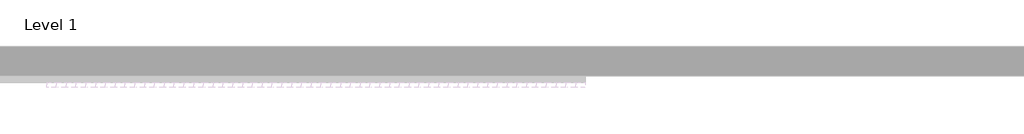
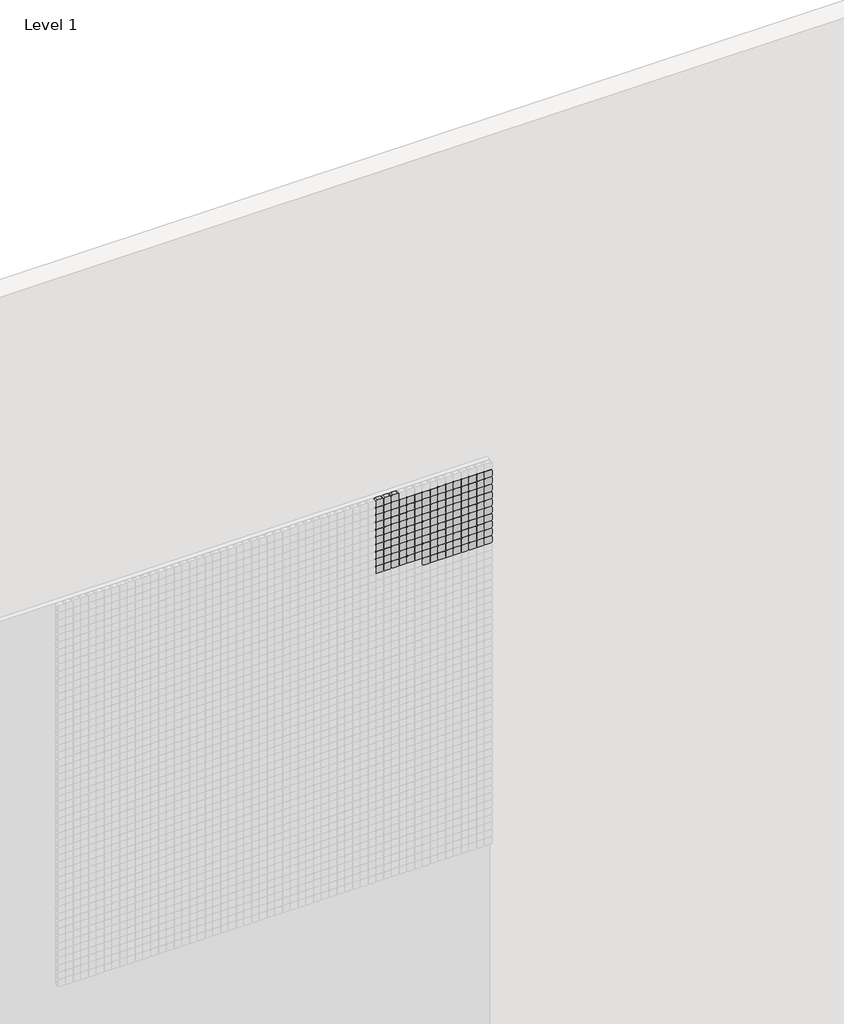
# One storey, part 62 of 71: 147 proxies.
"""IFC4 building model written with IfcOpenShell, lengths in millimetres."""

from ifc_helpers import new_model, si_unit, origin, place, context, project, spatial, transform, mapped, element, save
from components import generic_models_afde289c

model = new_model("IFC4")

# Units and contexts
model_context = context("Model", 3, world=origin())
ifc_project = project(units=[si_unit("LENGTHUNIT", "METRE", prefix="MILLI")], contexts=[model_context])

# Site, building, storey
site = spatial("IfcSite", under=ifc_project)
building = spatial("IfcBuilding", under=site)
storey = spatial("IfcBuildingStorey", under=building, Name="Level 1", Elevation=0.0)

# Proxies
placement = place(None, origin())
generic_models_shape = generic_models_afde289c(model_context)
element("IfcBuildingElementProxy", 1, Name="Pixel_M : Pixel_M", ObjectType="Pixel_M : Pixel_M", at=placement, inside=storey, context=model_context, shape_type="MappedRepresentation", body=[
    mapped(generic_models_shape, transform((9112.4280941, -75.0, 5966.3566215), x_axis=(1.0, 0.0, 0.0), y_axis=(0.0, 0.0, 1.0), z_axis=(0.0, -1.0, 0.0))),
])
element("IfcBuildingElementProxy", 2, Name="Pixel_M : Pixel_M", ObjectType="Pixel_M : Pixel_M", at=placement, inside=storey, context=model_context, shape_type="MappedRepresentation", body=[
    mapped(generic_models_shape, transform((9062.4280941, -75.0, 5966.3566215), x_axis=(1.0, 0.0, 0.0), y_axis=(0.0, 0.0, 1.0), z_axis=(0.0, -1.0, 0.0))),
])
element("IfcBuildingElementProxy", 3, Name="Pixel_M : Pixel_M", ObjectType="Pixel_M : Pixel_M", at=placement, inside=storey, context=model_context, shape_type="MappedRepresentation", body=[
    mapped(generic_models_shape, transform((9012.4280941, -75.0, 5966.3566215), x_axis=(1.0, 0.0, 0.0), y_axis=(0.0, 0.0, 1.0), z_axis=(0.0, -1.0, 0.0))),
])
element("IfcBuildingElementProxy", 4, Name="Pixel_M : Pixel_M", ObjectType="Pixel_M : Pixel_M", at=placement, inside=storey, context=model_context, shape_type="MappedRepresentation", body=[
    mapped(generic_models_shape, transform((9712.4280941, -75.0, 5916.3566215), x_axis=(1.0, 0.0, 0.0), y_axis=(0.0, 0.0, 1.0), z_axis=(0.0, -1.0, 0.0))),
])
element("IfcBuildingElementProxy", 5, Name="Pixel_M : Pixel_M", ObjectType="Pixel_M : Pixel_M", at=placement, inside=storey, context=model_context, shape_type="MappedRepresentation", body=[
    mapped(generic_models_shape, transform((9662.4280941, -75.0, 5916.3566215), x_axis=(1.0, 0.0, 0.0), y_axis=(0.0, 0.0, 1.0), z_axis=(0.0, -1.0, 0.0))),
])
element("IfcBuildingElementProxy", 6, Name="Pixel_M : Pixel_M", ObjectType="Pixel_M : Pixel_M", at=placement, inside=storey, context=model_context, shape_type="MappedRepresentation", body=[
    mapped(generic_models_shape, transform((9612.4280941, -75.0, 5916.3566215), x_axis=(1.0, 0.0, 0.0), y_axis=(0.0, 0.0, 1.0), z_axis=(0.0, -1.0, 0.0))),
])
element("IfcBuildingElementProxy", 7, Name="Pixel_M : Pixel_M", ObjectType="Pixel_M : Pixel_M", at=placement, inside=storey, context=model_context, shape_type="MappedRepresentation", body=[
    mapped(generic_models_shape, transform((9562.4280941, -75.0, 5916.3566215), x_axis=(1.0, 0.0, 0.0), y_axis=(0.0, 0.0, 1.0), z_axis=(0.0, -1.0, 0.0))),
])
element("IfcBuildingElementProxy", 8, Name="Pixel_M : Pixel_M", ObjectType="Pixel_M : Pixel_M", at=placement, inside=storey, context=model_context, shape_type="MappedRepresentation", body=[
    mapped(generic_models_shape, transform((9512.4280941, -75.0, 5916.3566215), x_axis=(1.0, 0.0, 0.0), y_axis=(0.0, 0.0, 1.0), z_axis=(0.0, -1.0, 0.0))),
])
element("IfcBuildingElementProxy", 9, Name="Pixel_M : Pixel_M", ObjectType="Pixel_M : Pixel_M", at=placement, inside=storey, context=model_context, shape_type="MappedRepresentation", body=[
    mapped(generic_models_shape, transform((9462.4280941, -75.0, 5916.3566215), x_axis=(1.0, 0.0, 0.0), y_axis=(0.0, 0.0, 1.0), z_axis=(0.0, -1.0, 0.0))),
])
element("IfcBuildingElementProxy", 10, Name="Pixel_M : Pixel_M", ObjectType="Pixel_M : Pixel_M", at=placement, inside=storey, context=model_context, shape_type="MappedRepresentation", body=[
    mapped(generic_models_shape, transform((9412.4280941, -75.0, 5916.3566215), x_axis=(1.0, 0.0, 0.0), y_axis=(0.0, 0.0, 1.0), z_axis=(0.0, -1.0, 0.0))),
])
element("IfcBuildingElementProxy", 11, Name="Pixel_M : Pixel_M", ObjectType="Pixel_M : Pixel_M", at=placement, inside=storey, context=model_context, shape_type="MappedRepresentation", body=[
    mapped(generic_models_shape, transform((9362.4280941, -75.0, 5916.3566215), x_axis=(1.0, 0.0, 0.0), y_axis=(0.0, 0.0, 1.0), z_axis=(0.0, -1.0, 0.0))),
])
element("IfcBuildingElementProxy", 12, Name="Pixel_M : Pixel_M", ObjectType="Pixel_M : Pixel_M", at=placement, inside=storey, context=model_context, shape_type="MappedRepresentation", body=[
    mapped(generic_models_shape, transform((9312.4280941, -75.0, 5916.3566215), x_axis=(1.0, 0.0, 0.0), y_axis=(0.0, 0.0, 1.0), z_axis=(0.0, -1.0, 0.0))),
])
element("IfcBuildingElementProxy", 13, Name="Pixel_M : Pixel_M", ObjectType="Pixel_M : Pixel_M", at=placement, inside=storey, context=model_context, shape_type="MappedRepresentation", body=[
    mapped(generic_models_shape, transform((9262.4280941, -75.0, 5916.3566215), x_axis=(1.0, 0.0, 0.0), y_axis=(0.0, 0.0, 1.0), z_axis=(0.0, -1.0, 0.0))),
])
element("IfcBuildingElementProxy", 14, Name="Pixel_M : Pixel_M", ObjectType="Pixel_M : Pixel_M", at=placement, inside=storey, context=model_context, shape_type="MappedRepresentation", body=[
    mapped(generic_models_shape, transform((9212.4280941, -75.0, 5916.3566215), x_axis=(1.0, 0.0, 0.0), y_axis=(0.0, 0.0, 1.0), z_axis=(0.0, -1.0, 0.0))),
])
element("IfcBuildingElementProxy", 15, Name="Pixel_M : Pixel_M", ObjectType="Pixel_M : Pixel_M", at=placement, inside=storey, context=model_context, shape_type="MappedRepresentation", body=[
    mapped(generic_models_shape, transform((9162.4280941, -75.0, 5916.3566215), x_axis=(1.0, 0.0, 0.0), y_axis=(0.0, 0.0, 1.0), z_axis=(0.0, -1.0, 0.0))),
])
element("IfcBuildingElementProxy", 16, Name="Pixel_M : Pixel_M", ObjectType="Pixel_M : Pixel_M", at=placement, inside=storey, context=model_context, shape_type="MappedRepresentation", body=[
    mapped(generic_models_shape, transform((9112.4280941, -75.0, 5916.3566215), x_axis=(1.0, 0.0, 0.0), y_axis=(0.0, 0.0, 1.0), z_axis=(0.0, -1.0, 0.0))),
])
element("IfcBuildingElementProxy", 17, Name="Pixel_M : Pixel_M", ObjectType="Pixel_M : Pixel_M", at=placement, inside=storey, context=model_context, shape_type="MappedRepresentation", body=[
    mapped(generic_models_shape, transform((9062.4280941, -75.0, 5916.3566215), x_axis=(1.0, 0.0, 0.0), y_axis=(0.0, 0.0, 1.0), z_axis=(0.0, -1.0, 0.0))),
])
element("IfcBuildingElementProxy", 18, Name="Pixel_M : Pixel_M", ObjectType="Pixel_M : Pixel_M", at=placement, inside=storey, context=model_context, shape_type="MappedRepresentation", body=[
    mapped(generic_models_shape, transform((9012.4280941, -75.0, 5916.3566215), x_axis=(1.0, 0.0, 0.0), y_axis=(0.0, 0.0, 1.0), z_axis=(0.0, -1.0, 0.0))),
])
element("IfcBuildingElementProxy", 19, Name="Pixel_M : Pixel_M", ObjectType="Pixel_M : Pixel_M", at=placement, inside=storey, context=model_context, shape_type="MappedRepresentation", body=[
    mapped(generic_models_shape, transform((9712.4280941, -75.0, 5866.3566215), x_axis=(1.0, 0.0, 0.0), y_axis=(0.0, 0.0, 1.0), z_axis=(0.0, -1.0, 0.0))),
])
element("IfcBuildingElementProxy", 20, Name="Pixel_M : Pixel_M", ObjectType="Pixel_M : Pixel_M", at=placement, inside=storey, context=model_context, shape_type="MappedRepresentation", body=[
    mapped(generic_models_shape, transform((9662.4280941, -75.0, 5866.3566215), x_axis=(1.0, 0.0, 0.0), y_axis=(0.0, 0.0, 1.0), z_axis=(0.0, -1.0, 0.0))),
])
element("IfcBuildingElementProxy", 21, Name="Pixel_M : Pixel_M", ObjectType="Pixel_M : Pixel_M", at=placement, inside=storey, context=model_context, shape_type="MappedRepresentation", body=[
    mapped(generic_models_shape, transform((9612.4280941, -75.0, 5866.3566215), x_axis=(1.0, 0.0, 0.0), y_axis=(0.0, 0.0, 1.0), z_axis=(0.0, -1.0, 0.0))),
])
element("IfcBuildingElementProxy", 22, Name="Pixel_M : Pixel_M", ObjectType="Pixel_M : Pixel_M", at=placement, inside=storey, context=model_context, shape_type="MappedRepresentation", body=[
    mapped(generic_models_shape, transform((9562.4280941, -75.0, 5866.3566215), x_axis=(1.0, 0.0, 0.0), y_axis=(0.0, 0.0, 1.0), z_axis=(0.0, -1.0, 0.0))),
])
element("IfcBuildingElementProxy", 23, Name="Pixel_M : Pixel_M", ObjectType="Pixel_M : Pixel_M", at=placement, inside=storey, context=model_context, shape_type="MappedRepresentation", body=[
    mapped(generic_models_shape, transform((9512.4280941, -75.0, 5866.3566215), x_axis=(1.0, 0.0, 0.0), y_axis=(0.0, 0.0, 1.0), z_axis=(0.0, -1.0, 0.0))),
])
element("IfcBuildingElementProxy", 24, Name="Pixel_M : Pixel_M", ObjectType="Pixel_M : Pixel_M", at=placement, inside=storey, context=model_context, shape_type="MappedRepresentation", body=[
    mapped(generic_models_shape, transform((9462.4280941, -75.0, 5866.3566215), x_axis=(1.0, 0.0, 0.0), y_axis=(0.0, 0.0, 1.0), z_axis=(0.0, -1.0, 0.0))),
])
element("IfcBuildingElementProxy", 25, Name="Pixel_M : Pixel_M", ObjectType="Pixel_M : Pixel_M", at=placement, inside=storey, context=model_context, shape_type="MappedRepresentation", body=[
    mapped(generic_models_shape, transform((9412.4280941, -75.0, 5866.3566215), x_axis=(1.0, 0.0, 0.0), y_axis=(0.0, 0.0, 1.0), z_axis=(0.0, -1.0, 0.0))),
])
element("IfcBuildingElementProxy", 26, Name="Pixel_M : Pixel_M", ObjectType="Pixel_M : Pixel_M", at=placement, inside=storey, context=model_context, shape_type="MappedRepresentation", body=[
    mapped(generic_models_shape, transform((9362.4280941, -75.0, 5866.3566215), x_axis=(1.0, 0.0, 0.0), y_axis=(0.0, 0.0, 1.0), z_axis=(0.0, -1.0, 0.0))),
])
element("IfcBuildingElementProxy", 27, Name="Pixel_M : Pixel_M", ObjectType="Pixel_M : Pixel_M", at=placement, inside=storey, context=model_context, shape_type="MappedRepresentation", body=[
    mapped(generic_models_shape, transform((9312.4280941, -75.0, 5866.3566215), x_axis=(1.0, 0.0, 0.0), y_axis=(0.0, 0.0, 1.0), z_axis=(0.0, -1.0, 0.0))),
])
element("IfcBuildingElementProxy", 28, Name="Pixel_M : Pixel_M", ObjectType="Pixel_M : Pixel_M", at=placement, inside=storey, context=model_context, shape_type="MappedRepresentation", body=[
    mapped(generic_models_shape, transform((9262.4280941, -75.0, 5866.3566215), x_axis=(1.0, 0.0, 0.0), y_axis=(0.0, 0.0, 1.0), z_axis=(0.0, -1.0, 0.0))),
])
element("IfcBuildingElementProxy", 29, Name="Pixel_M : Pixel_M", ObjectType="Pixel_M : Pixel_M", at=placement, inside=storey, context=model_context, shape_type="MappedRepresentation", body=[
    mapped(generic_models_shape, transform((9212.4280941, -75.0, 5866.3566215), x_axis=(1.0, 0.0, 0.0), y_axis=(0.0, 0.0, 1.0), z_axis=(0.0, -1.0, 0.0))),
])
element("IfcBuildingElementProxy", 30, Name="Pixel_M : Pixel_M", ObjectType="Pixel_M : Pixel_M", at=placement, inside=storey, context=model_context, shape_type="MappedRepresentation", body=[
    mapped(generic_models_shape, transform((9162.4280941, -75.0, 5866.3566215), x_axis=(1.0, 0.0, 0.0), y_axis=(0.0, 0.0, 1.0), z_axis=(0.0, -1.0, 0.0))),
])
element("IfcBuildingElementProxy", 31, Name="Pixel_M : Pixel_M", ObjectType="Pixel_M : Pixel_M", at=placement, inside=storey, context=model_context, shape_type="MappedRepresentation", body=[
    mapped(generic_models_shape, transform((9112.4280941, -75.0, 5866.3566215), x_axis=(1.0, 0.0, 0.0), y_axis=(0.0, 0.0, 1.0), z_axis=(0.0, -1.0, 0.0))),
])
element("IfcBuildingElementProxy", 32, Name="Pixel_M : Pixel_M", ObjectType="Pixel_M : Pixel_M", at=placement, inside=storey, context=model_context, shape_type="MappedRepresentation", body=[
    mapped(generic_models_shape, transform((9062.4280941, -75.0, 5866.3566215), x_axis=(1.0, 0.0, 0.0), y_axis=(0.0, 0.0, 1.0), z_axis=(0.0, -1.0, 0.0))),
])
element("IfcBuildingElementProxy", 33, Name="Pixel_M : Pixel_M", ObjectType="Pixel_M : Pixel_M", at=placement, inside=storey, context=model_context, shape_type="MappedRepresentation", body=[
    mapped(generic_models_shape, transform((9012.4280941, -75.0, 5866.3566215), x_axis=(1.0, 0.0, 0.0), y_axis=(0.0, 0.0, 1.0), z_axis=(0.0, -1.0, 0.0))),
])
element("IfcBuildingElementProxy", 34, Name="Pixel_M : Pixel_M", ObjectType="Pixel_M : Pixel_M", at=placement, inside=storey, context=model_context, shape_type="MappedRepresentation", body=[
    mapped(generic_models_shape, transform((9712.4280941, -75.0, 5816.3566215), x_axis=(1.0, 0.0, 0.0), y_axis=(0.0, 0.0, 1.0), z_axis=(0.0, -1.0, 0.0))),
])
element("IfcBuildingElementProxy", 35, Name="Pixel_M : Pixel_M", ObjectType="Pixel_M : Pixel_M", at=placement, inside=storey, context=model_context, shape_type="MappedRepresentation", body=[
    mapped(generic_models_shape, transform((9662.4280941, -75.0, 5816.3566215), x_axis=(1.0, 0.0, 0.0), y_axis=(0.0, 0.0, 1.0), z_axis=(0.0, -1.0, 0.0))),
])
element("IfcBuildingElementProxy", 36, Name="Pixel_M : Pixel_M", ObjectType="Pixel_M : Pixel_M", at=placement, inside=storey, context=model_context, shape_type="MappedRepresentation", body=[
    mapped(generic_models_shape, transform((9612.4280941, -75.0, 5816.3566215), x_axis=(1.0, 0.0, 0.0), y_axis=(0.0, 0.0, 1.0), z_axis=(0.0, -1.0, 0.0))),
])
element("IfcBuildingElementProxy", 37, Name="Pixel_M : Pixel_M", ObjectType="Pixel_M : Pixel_M", at=placement, inside=storey, context=model_context, shape_type="MappedRepresentation", body=[
    mapped(generic_models_shape, transform((9562.4280941, -75.0, 5816.3566215), x_axis=(1.0, 0.0, 0.0), y_axis=(0.0, 0.0, 1.0), z_axis=(0.0, -1.0, 0.0))),
])
element("IfcBuildingElementProxy", 38, Name="Pixel_M : Pixel_M", ObjectType="Pixel_M : Pixel_M", at=placement, inside=storey, context=model_context, shape_type="MappedRepresentation", body=[
    mapped(generic_models_shape, transform((9512.4280941, -75.0, 5816.3566215), x_axis=(1.0, 0.0, 0.0), y_axis=(0.0, 0.0, 1.0), z_axis=(0.0, -1.0, 0.0))),
])
element("IfcBuildingElementProxy", 39, Name="Pixel_M : Pixel_M", ObjectType="Pixel_M : Pixel_M", at=placement, inside=storey, context=model_context, shape_type="MappedRepresentation", body=[
    mapped(generic_models_shape, transform((9462.4280941, -75.0, 5816.3566215), x_axis=(1.0, 0.0, 0.0), y_axis=(0.0, 0.0, 1.0), z_axis=(0.0, -1.0, 0.0))),
])
element("IfcBuildingElementProxy", 40, Name="Pixel_M : Pixel_M", ObjectType="Pixel_M : Pixel_M", at=placement, inside=storey, context=model_context, shape_type="MappedRepresentation", body=[
    mapped(generic_models_shape, transform((9412.4280941, -75.0, 5816.3566215), x_axis=(1.0, 0.0, 0.0), y_axis=(0.0, 0.0, 1.0), z_axis=(0.0, -1.0, 0.0))),
])
element("IfcBuildingElementProxy", 41, Name="Pixel_M : Pixel_M", ObjectType="Pixel_M : Pixel_M", at=placement, inside=storey, context=model_context, shape_type="MappedRepresentation", body=[
    mapped(generic_models_shape, transform((9362.4280941, -75.0, 5816.3566215), x_axis=(1.0, 0.0, 0.0), y_axis=(0.0, 0.0, 1.0), z_axis=(0.0, -1.0, 0.0))),
])
element("IfcBuildingElementProxy", 42, Name="Pixel_M : Pixel_M", ObjectType="Pixel_M : Pixel_M", at=placement, inside=storey, context=model_context, shape_type="MappedRepresentation", body=[
    mapped(generic_models_shape, transform((9312.4280941, -75.0, 5816.3566215), x_axis=(1.0, 0.0, 0.0), y_axis=(0.0, 0.0, 1.0), z_axis=(0.0, -1.0, 0.0))),
])
element("IfcBuildingElementProxy", 43, Name="Pixel_M : Pixel_M", ObjectType="Pixel_M : Pixel_M", at=placement, inside=storey, context=model_context, shape_type="MappedRepresentation", body=[
    mapped(generic_models_shape, transform((9262.4280941, -75.0, 5816.3566215), x_axis=(1.0, 0.0, 0.0), y_axis=(0.0, 0.0, 1.0), z_axis=(0.0, -1.0, 0.0))),
])
element("IfcBuildingElementProxy", 44, Name="Pixel_M : Pixel_M", ObjectType="Pixel_M : Pixel_M", at=placement, inside=storey, context=model_context, shape_type="MappedRepresentation", body=[
    mapped(generic_models_shape, transform((9212.4280941, -75.0, 5816.3566215), x_axis=(1.0, 0.0, 0.0), y_axis=(0.0, 0.0, 1.0), z_axis=(0.0, -1.0, 0.0))),
])
element("IfcBuildingElementProxy", 45, Name="Pixel_M : Pixel_M", ObjectType="Pixel_M : Pixel_M", at=placement, inside=storey, context=model_context, shape_type="MappedRepresentation", body=[
    mapped(generic_models_shape, transform((9162.4280941, -75.0, 5816.3566215), x_axis=(1.0, 0.0, 0.0), y_axis=(0.0, 0.0, 1.0), z_axis=(0.0, -1.0, 0.0))),
])
element("IfcBuildingElementProxy", 46, Name="Pixel_M : Pixel_M", ObjectType="Pixel_M : Pixel_M", at=placement, inside=storey, context=model_context, shape_type="MappedRepresentation", body=[
    mapped(generic_models_shape, transform((9112.4280941, -75.0, 5816.3566215), x_axis=(1.0, 0.0, 0.0), y_axis=(0.0, 0.0, 1.0), z_axis=(0.0, -1.0, 0.0))),
])
element("IfcBuildingElementProxy", 47, Name="Pixel_M : Pixel_M", ObjectType="Pixel_M : Pixel_M", at=placement, inside=storey, context=model_context, shape_type="MappedRepresentation", body=[
    mapped(generic_models_shape, transform((9062.4280941, -75.0, 5816.3566215), x_axis=(1.0, 0.0, 0.0), y_axis=(0.0, 0.0, 1.0), z_axis=(0.0, -1.0, 0.0))),
])
element("IfcBuildingElementProxy", 48, Name="Pixel_M : Pixel_M", ObjectType="Pixel_M : Pixel_M", at=placement, inside=storey, context=model_context, shape_type="MappedRepresentation", body=[
    mapped(generic_models_shape, transform((9012.4280941, -75.0, 5816.3566215), x_axis=(1.0, 0.0, 0.0), y_axis=(0.0, 0.0, 1.0), z_axis=(0.0, -1.0, 0.0))),
])
element("IfcBuildingElementProxy", 49, Name="Pixel_M : Pixel_M", ObjectType="Pixel_M : Pixel_M", at=placement, inside=storey, context=model_context, shape_type="MappedRepresentation", body=[
    mapped(generic_models_shape, transform((9712.4280941, -75.0, 5766.3566215), x_axis=(1.0, 0.0, 0.0), y_axis=(0.0, 0.0, 1.0), z_axis=(0.0, -1.0, 0.0))),
])
element("IfcBuildingElementProxy", 50, Name="Pixel_M : Pixel_M", ObjectType="Pixel_M : Pixel_M", at=placement, inside=storey, context=model_context, shape_type="MappedRepresentation", body=[
    mapped(generic_models_shape, transform((9662.4280941, -75.0, 5766.3566215), x_axis=(1.0, 0.0, 0.0), y_axis=(0.0, 0.0, 1.0), z_axis=(0.0, -1.0, 0.0))),
])
element("IfcBuildingElementProxy", 51, Name="Pixel_M : Pixel_M", ObjectType="Pixel_M : Pixel_M", at=placement, inside=storey, context=model_context, shape_type="MappedRepresentation", body=[
    mapped(generic_models_shape, transform((9612.4280941, -75.0, 5766.3566215), x_axis=(1.0, 0.0, 0.0), y_axis=(0.0, 0.0, 1.0), z_axis=(0.0, -1.0, 0.0))),
])
element("IfcBuildingElementProxy", 52, Name="Pixel_M : Pixel_M", ObjectType="Pixel_M : Pixel_M", at=placement, inside=storey, context=model_context, shape_type="MappedRepresentation", body=[
    mapped(generic_models_shape, transform((9562.4280941, -75.0, 5766.3566215), x_axis=(1.0, 0.0, 0.0), y_axis=(0.0, 0.0, 1.0), z_axis=(0.0, -1.0, 0.0))),
])
element("IfcBuildingElementProxy", 53, Name="Pixel_M : Pixel_M", ObjectType="Pixel_M : Pixel_M", at=placement, inside=storey, context=model_context, shape_type="MappedRepresentation", body=[
    mapped(generic_models_shape, transform((9512.4280941, -75.0, 5766.3566215), x_axis=(1.0, 0.0, 0.0), y_axis=(0.0, 0.0, 1.0), z_axis=(0.0, -1.0, 0.0))),
])
element("IfcBuildingElementProxy", 54, Name="Pixel_M : Pixel_M", ObjectType="Pixel_M : Pixel_M", at=placement, inside=storey, context=model_context, shape_type="MappedRepresentation", body=[
    mapped(generic_models_shape, transform((9462.4280941, -75.0, 5766.3566215), x_axis=(1.0, 0.0, 0.0), y_axis=(0.0, 0.0, 1.0), z_axis=(0.0, -1.0, 0.0))),
])
element("IfcBuildingElementProxy", 55, Name="Pixel_M : Pixel_M", ObjectType="Pixel_M : Pixel_M", at=placement, inside=storey, context=model_context, shape_type="MappedRepresentation", body=[
    mapped(generic_models_shape, transform((9412.4280941, -75.0, 5766.3566215), x_axis=(1.0, 0.0, 0.0), y_axis=(0.0, 0.0, 1.0), z_axis=(0.0, -1.0, 0.0))),
])
element("IfcBuildingElementProxy", 56, Name="Pixel_M : Pixel_M", ObjectType="Pixel_M : Pixel_M", at=placement, inside=storey, context=model_context, shape_type="MappedRepresentation", body=[
    mapped(generic_models_shape, transform((9362.4280941, -75.0, 5766.3566215), x_axis=(1.0, 0.0, 0.0), y_axis=(0.0, 0.0, 1.0), z_axis=(0.0, -1.0, 0.0))),
])
element("IfcBuildingElementProxy", 57, Name="Pixel_M : Pixel_M", ObjectType="Pixel_M : Pixel_M", at=placement, inside=storey, context=model_context, shape_type="MappedRepresentation", body=[
    mapped(generic_models_shape, transform((9312.4280941, -75.0, 5766.3566215), x_axis=(1.0, 0.0, 0.0), y_axis=(0.0, 0.0, 1.0), z_axis=(0.0, -1.0, 0.0))),
])
element("IfcBuildingElementProxy", 58, Name="Pixel_M : Pixel_M", ObjectType="Pixel_M : Pixel_M", at=placement, inside=storey, context=model_context, shape_type="MappedRepresentation", body=[
    mapped(generic_models_shape, transform((9262.4280941, -75.0, 5766.3566215), x_axis=(1.0, 0.0, 0.0), y_axis=(0.0, 0.0, 1.0), z_axis=(0.0, -1.0, 0.0))),
])
element("IfcBuildingElementProxy", 59, Name="Pixel_M : Pixel_M", ObjectType="Pixel_M : Pixel_M", at=placement, inside=storey, context=model_context, shape_type="MappedRepresentation", body=[
    mapped(generic_models_shape, transform((9212.4280941, -75.0, 5766.3566215), x_axis=(1.0, 0.0, 0.0), y_axis=(0.0, 0.0, 1.0), z_axis=(0.0, -1.0, 0.0))),
])
element("IfcBuildingElementProxy", 60, Name="Pixel_M : Pixel_M", ObjectType="Pixel_M : Pixel_M", at=placement, inside=storey, context=model_context, shape_type="MappedRepresentation", body=[
    mapped(generic_models_shape, transform((9162.4280941, -75.0, 5766.3566215), x_axis=(1.0, 0.0, 0.0), y_axis=(0.0, 0.0, 1.0), z_axis=(0.0, -1.0, 0.0))),
])
element("IfcBuildingElementProxy", 61, Name="Pixel_M : Pixel_M", ObjectType="Pixel_M : Pixel_M", at=placement, inside=storey, context=model_context, shape_type="MappedRepresentation", body=[
    mapped(generic_models_shape, transform((9112.4280941, -75.0, 5766.3566215), x_axis=(1.0, 0.0, 0.0), y_axis=(0.0, 0.0, 1.0), z_axis=(0.0, -1.0, 0.0))),
])
element("IfcBuildingElementProxy", 62, Name="Pixel_M : Pixel_M", ObjectType="Pixel_M : Pixel_M", at=placement, inside=storey, context=model_context, shape_type="MappedRepresentation", body=[
    mapped(generic_models_shape, transform((9062.4280941, -75.0, 5766.3566215), x_axis=(1.0, 0.0, 0.0), y_axis=(0.0, 0.0, 1.0), z_axis=(0.0, -1.0, 0.0))),
])
element("IfcBuildingElementProxy", 63, Name="Pixel_M : Pixel_M", ObjectType="Pixel_M : Pixel_M", at=placement, inside=storey, context=model_context, shape_type="MappedRepresentation", body=[
    mapped(generic_models_shape, transform((9012.4280941, -75.0, 5766.3566215), x_axis=(1.0, 0.0, 0.0), y_axis=(0.0, 0.0, 1.0), z_axis=(0.0, -1.0, 0.0))),
])
element("IfcBuildingElementProxy", 64, Name="Pixel_M : Pixel_M", ObjectType="Pixel_M : Pixel_M", at=placement, inside=storey, context=model_context, shape_type="MappedRepresentation", body=[
    mapped(generic_models_shape, transform((9712.4280941, -75.0, 5716.3566215), x_axis=(1.0, 0.0, 0.0), y_axis=(0.0, 0.0, 1.0), z_axis=(0.0, -1.0, 0.0))),
])
element("IfcBuildingElementProxy", 65, Name="Pixel_M : Pixel_M", ObjectType="Pixel_M : Pixel_M", at=placement, inside=storey, context=model_context, shape_type="MappedRepresentation", body=[
    mapped(generic_models_shape, transform((9662.4280941, -75.0, 5716.3566215), x_axis=(1.0, 0.0, 0.0), y_axis=(0.0, 0.0, 1.0), z_axis=(0.0, -1.0, 0.0))),
])
element("IfcBuildingElementProxy", 66, Name="Pixel_M : Pixel_M", ObjectType="Pixel_M : Pixel_M", at=placement, inside=storey, context=model_context, shape_type="MappedRepresentation", body=[
    mapped(generic_models_shape, transform((9612.4280941, -75.0, 5716.3566215), x_axis=(1.0, 0.0, 0.0), y_axis=(0.0, 0.0, 1.0), z_axis=(0.0, -1.0, 0.0))),
])
element("IfcBuildingElementProxy", 67, Name="Pixel_M : Pixel_M", ObjectType="Pixel_M : Pixel_M", at=placement, inside=storey, context=model_context, shape_type="MappedRepresentation", body=[
    mapped(generic_models_shape, transform((9562.4280941, -75.0, 5716.3566215), x_axis=(1.0, 0.0, 0.0), y_axis=(0.0, 0.0, 1.0), z_axis=(0.0, -1.0, 0.0))),
])
element("IfcBuildingElementProxy", 68, Name="Pixel_M : Pixel_M", ObjectType="Pixel_M : Pixel_M", at=placement, inside=storey, context=model_context, shape_type="MappedRepresentation", body=[
    mapped(generic_models_shape, transform((9512.4280941, -75.0, 5716.3566215), x_axis=(1.0, 0.0, 0.0), y_axis=(0.0, 0.0, 1.0), z_axis=(0.0, -1.0, 0.0))),
])
element("IfcBuildingElementProxy", 69, Name="Pixel_M : Pixel_M", ObjectType="Pixel_M : Pixel_M", at=placement, inside=storey, context=model_context, shape_type="MappedRepresentation", body=[
    mapped(generic_models_shape, transform((9462.4280941, -75.0, 5716.3566215), x_axis=(1.0, 0.0, 0.0), y_axis=(0.0, 0.0, 1.0), z_axis=(0.0, -1.0, 0.0))),
])
element("IfcBuildingElementProxy", 70, Name="Pixel_M : Pixel_M", ObjectType="Pixel_M : Pixel_M", at=placement, inside=storey, context=model_context, shape_type="MappedRepresentation", body=[
    mapped(generic_models_shape, transform((9412.4280941, -75.0, 5716.3566215), x_axis=(1.0, 0.0, 0.0), y_axis=(0.0, 0.0, 1.0), z_axis=(0.0, -1.0, 0.0))),
])
element("IfcBuildingElementProxy", 71, Name="Pixel_M : Pixel_M", ObjectType="Pixel_M : Pixel_M", at=placement, inside=storey, context=model_context, shape_type="MappedRepresentation", body=[
    mapped(generic_models_shape, transform((9362.4280941, -75.0, 5716.3566215), x_axis=(1.0, 0.0, 0.0), y_axis=(0.0, 0.0, 1.0), z_axis=(0.0, -1.0, 0.0))),
])
element("IfcBuildingElementProxy", 72, Name="Pixel_M : Pixel_M", ObjectType="Pixel_M : Pixel_M", at=placement, inside=storey, context=model_context, shape_type="MappedRepresentation", body=[
    mapped(generic_models_shape, transform((9312.4280941, -75.0, 5716.3566215), x_axis=(1.0, 0.0, 0.0), y_axis=(0.0, 0.0, 1.0), z_axis=(0.0, -1.0, 0.0))),
])
element("IfcBuildingElementProxy", 73, Name="Pixel_M : Pixel_M", ObjectType="Pixel_M : Pixel_M", at=placement, inside=storey, context=model_context, shape_type="MappedRepresentation", body=[
    mapped(generic_models_shape, transform((9262.4280941, -75.0, 5716.3566215), x_axis=(1.0, 0.0, 0.0), y_axis=(0.0, 0.0, 1.0), z_axis=(0.0, -1.0, 0.0))),
])
element("IfcBuildingElementProxy", 74, Name="Pixel_M : Pixel_M", ObjectType="Pixel_M : Pixel_M", at=placement, inside=storey, context=model_context, shape_type="MappedRepresentation", body=[
    mapped(generic_models_shape, transform((9212.4280941, -75.0, 5716.3566215), x_axis=(1.0, 0.0, 0.0), y_axis=(0.0, 0.0, 1.0), z_axis=(0.0, -1.0, 0.0))),
])
element("IfcBuildingElementProxy", 75, Name="Pixel_M : Pixel_M", ObjectType="Pixel_M : Pixel_M", at=placement, inside=storey, context=model_context, shape_type="MappedRepresentation", body=[
    mapped(generic_models_shape, transform((9162.4280941, -75.0, 5716.3566215), x_axis=(1.0, 0.0, 0.0), y_axis=(0.0, 0.0, 1.0), z_axis=(0.0, -1.0, 0.0))),
])
element("IfcBuildingElementProxy", 76, Name="Pixel_M : Pixel_M", ObjectType="Pixel_M : Pixel_M", at=placement, inside=storey, context=model_context, shape_type="MappedRepresentation", body=[
    mapped(generic_models_shape, transform((9112.4280941, -75.0, 5716.3566215), x_axis=(1.0, 0.0, 0.0), y_axis=(0.0, 0.0, 1.0), z_axis=(0.0, -1.0, 0.0))),
])
element("IfcBuildingElementProxy", 77, Name="Pixel_M : Pixel_M", ObjectType="Pixel_M : Pixel_M", at=placement, inside=storey, context=model_context, shape_type="MappedRepresentation", body=[
    mapped(generic_models_shape, transform((9062.4280941, -75.0, 5716.3566215), x_axis=(1.0, 0.0, 0.0), y_axis=(0.0, 0.0, 1.0), z_axis=(0.0, -1.0, 0.0))),
])
element("IfcBuildingElementProxy", 78, Name="Pixel_M : Pixel_M", ObjectType="Pixel_M : Pixel_M", at=placement, inside=storey, context=model_context, shape_type="MappedRepresentation", body=[
    mapped(generic_models_shape, transform((9012.4280941, -75.0, 5716.3566215), x_axis=(1.0, 0.0, 0.0), y_axis=(0.0, 0.0, 1.0), z_axis=(0.0, -1.0, 0.0))),
])
element("IfcBuildingElementProxy", 79, Name="Pixel_M : Pixel_M", ObjectType="Pixel_M : Pixel_M", at=placement, inside=storey, context=model_context, shape_type="MappedRepresentation", body=[
    mapped(generic_models_shape, transform((9712.4280941, -75.0, 5666.3566215), x_axis=(1.0, 0.0, 0.0), y_axis=(0.0, 0.0, 1.0), z_axis=(0.0, -1.0, 0.0))),
])
element("IfcBuildingElementProxy", 80, Name="Pixel_M : Pixel_M", ObjectType="Pixel_M : Pixel_M", at=placement, inside=storey, context=model_context, shape_type="MappedRepresentation", body=[
    mapped(generic_models_shape, transform((9662.4280941, -75.0, 5666.3566215), x_axis=(1.0, 0.0, 0.0), y_axis=(0.0, 0.0, 1.0), z_axis=(0.0, -1.0, 0.0))),
])
element("IfcBuildingElementProxy", 81, Name="Pixel_M : Pixel_M", ObjectType="Pixel_M : Pixel_M", at=placement, inside=storey, context=model_context, shape_type="MappedRepresentation", body=[
    mapped(generic_models_shape, transform((9612.4280941, -75.0, 5666.3566215), x_axis=(1.0, 0.0, 0.0), y_axis=(0.0, 0.0, 1.0), z_axis=(0.0, -1.0, 0.0))),
])
element("IfcBuildingElementProxy", 82, Name="Pixel_M : Pixel_M", ObjectType="Pixel_M : Pixel_M", at=placement, inside=storey, context=model_context, shape_type="MappedRepresentation", body=[
    mapped(generic_models_shape, transform((9562.4280941, -75.0, 5666.3566215), x_axis=(1.0, 0.0, 0.0), y_axis=(0.0, 0.0, 1.0), z_axis=(0.0, -1.0, 0.0))),
])
element("IfcBuildingElementProxy", 83, Name="Pixel_M : Pixel_M", ObjectType="Pixel_M : Pixel_M", at=placement, inside=storey, context=model_context, shape_type="MappedRepresentation", body=[
    mapped(generic_models_shape, transform((9512.4280941, -75.0, 5666.3566215), x_axis=(1.0, 0.0, 0.0), y_axis=(0.0, 0.0, 1.0), z_axis=(0.0, -1.0, 0.0))),
])
element("IfcBuildingElementProxy", 84, Name="Pixel_M : Pixel_M", ObjectType="Pixel_M : Pixel_M", at=placement, inside=storey, context=model_context, shape_type="MappedRepresentation", body=[
    mapped(generic_models_shape, transform((9462.4280941, -75.0, 5666.3566215), x_axis=(1.0, 0.0, 0.0), y_axis=(0.0, 0.0, 1.0), z_axis=(0.0, -1.0, 0.0))),
])
element("IfcBuildingElementProxy", 85, Name="Pixel_M : Pixel_M", ObjectType="Pixel_M : Pixel_M", at=placement, inside=storey, context=model_context, shape_type="MappedRepresentation", body=[
    mapped(generic_models_shape, transform((9412.4280941, -75.0, 5666.3566215), x_axis=(1.0, 0.0, 0.0), y_axis=(0.0, 0.0, 1.0), z_axis=(0.0, -1.0, 0.0))),
])
element("IfcBuildingElementProxy", 86, Name="Pixel_M : Pixel_M", ObjectType="Pixel_M : Pixel_M", at=placement, inside=storey, context=model_context, shape_type="MappedRepresentation", body=[
    mapped(generic_models_shape, transform((9362.4280941, -75.0, 5666.3566215), x_axis=(1.0, 0.0, 0.0), y_axis=(0.0, 0.0, 1.0), z_axis=(0.0, -1.0, 0.0))),
])
element("IfcBuildingElementProxy", 87, Name="Pixel_M : Pixel_M", ObjectType="Pixel_M : Pixel_M", at=placement, inside=storey, context=model_context, shape_type="MappedRepresentation", body=[
    mapped(generic_models_shape, transform((9312.4280941, -75.0, 5666.3566215), x_axis=(1.0, 0.0, 0.0), y_axis=(0.0, 0.0, 1.0), z_axis=(0.0, -1.0, 0.0))),
])
element("IfcBuildingElementProxy", 88, Name="Pixel_M : Pixel_M", ObjectType="Pixel_M : Pixel_M", at=placement, inside=storey, context=model_context, shape_type="MappedRepresentation", body=[
    mapped(generic_models_shape, transform((9262.4280941, -75.0, 5666.3566215), x_axis=(1.0, 0.0, 0.0), y_axis=(0.0, 0.0, 1.0), z_axis=(0.0, -1.0, 0.0))),
])
element("IfcBuildingElementProxy", 89, Name="Pixel_M : Pixel_M", ObjectType="Pixel_M : Pixel_M", at=placement, inside=storey, context=model_context, shape_type="MappedRepresentation", body=[
    mapped(generic_models_shape, transform((9212.4280941, -75.0, 5666.3566215), x_axis=(1.0, 0.0, 0.0), y_axis=(0.0, 0.0, 1.0), z_axis=(0.0, -1.0, 0.0))),
])
element("IfcBuildingElementProxy", 90, Name="Pixel_M : Pixel_M", ObjectType="Pixel_M : Pixel_M", at=placement, inside=storey, context=model_context, shape_type="MappedRepresentation", body=[
    mapped(generic_models_shape, transform((9162.4280941, -75.0, 5666.3566215), x_axis=(1.0, 0.0, 0.0), y_axis=(0.0, 0.0, 1.0), z_axis=(0.0, -1.0, 0.0))),
])
element("IfcBuildingElementProxy", 91, Name="Pixel_M : Pixel_M", ObjectType="Pixel_M : Pixel_M", at=placement, inside=storey, context=model_context, shape_type="MappedRepresentation", body=[
    mapped(generic_models_shape, transform((9112.4280941, -75.0, 5666.3566215), x_axis=(1.0, 0.0, 0.0), y_axis=(0.0, 0.0, 1.0), z_axis=(0.0, -1.0, 0.0))),
])
element("IfcBuildingElementProxy", 92, Name="Pixel_M : Pixel_M", ObjectType="Pixel_M : Pixel_M", at=placement, inside=storey, context=model_context, shape_type="MappedRepresentation", body=[
    mapped(generic_models_shape, transform((9062.4280941, -75.0, 5666.3566215), x_axis=(1.0, 0.0, 0.0), y_axis=(0.0, 0.0, 1.0), z_axis=(0.0, -1.0, 0.0))),
])
element("IfcBuildingElementProxy", 93, Name="Pixel_M : Pixel_M", ObjectType="Pixel_M : Pixel_M", at=placement, inside=storey, context=model_context, shape_type="MappedRepresentation", body=[
    mapped(generic_models_shape, transform((9012.4280941, -75.0, 5666.3566215), x_axis=(1.0, 0.0, 0.0), y_axis=(0.0, 0.0, 1.0), z_axis=(0.0, -1.0, 0.0))),
])
element("IfcBuildingElementProxy", 94, Name="Pixel_M : Pixel_M", ObjectType="Pixel_M : Pixel_M", at=placement, inside=storey, context=model_context, shape_type="MappedRepresentation", body=[
    mapped(generic_models_shape, transform((9712.4280941, -75.0, 5616.3566215), x_axis=(1.0, 0.0, 0.0), y_axis=(0.0, 0.0, 1.0), z_axis=(0.0, -1.0, 0.0))),
])
element("IfcBuildingElementProxy", 95, Name="Pixel_M : Pixel_M", ObjectType="Pixel_M : Pixel_M", at=placement, inside=storey, context=model_context, shape_type="MappedRepresentation", body=[
    mapped(generic_models_shape, transform((9662.4280941, -75.0, 5616.3566215), x_axis=(1.0, 0.0, 0.0), y_axis=(0.0, 0.0, 1.0), z_axis=(0.0, -1.0, 0.0))),
])
element("IfcBuildingElementProxy", 96, Name="Pixel_M : Pixel_M", ObjectType="Pixel_M : Pixel_M", at=placement, inside=storey, context=model_context, shape_type="MappedRepresentation", body=[
    mapped(generic_models_shape, transform((9612.4280941, -75.0, 5616.3566215), x_axis=(1.0, 0.0, 0.0), y_axis=(0.0, 0.0, 1.0), z_axis=(0.0, -1.0, 0.0))),
])
element("IfcBuildingElementProxy", 97, Name="Pixel_M : Pixel_M", ObjectType="Pixel_M : Pixel_M", at=placement, inside=storey, context=model_context, shape_type="MappedRepresentation", body=[
    mapped(generic_models_shape, transform((9562.4280941, -75.0, 5616.3566215), x_axis=(1.0, 0.0, 0.0), y_axis=(0.0, 0.0, 1.0), z_axis=(0.0, -1.0, 0.0))),
])
element("IfcBuildingElementProxy", 98, Name="Pixel_M : Pixel_M", ObjectType="Pixel_M : Pixel_M", at=placement, inside=storey, context=model_context, shape_type="MappedRepresentation", body=[
    mapped(generic_models_shape, transform((9512.4280941, -75.0, 5616.3566215), x_axis=(1.0, 0.0, 0.0), y_axis=(0.0, 0.0, 1.0), z_axis=(0.0, -1.0, 0.0))),
])
element("IfcBuildingElementProxy", 99, Name="Pixel_M : Pixel_M", ObjectType="Pixel_M : Pixel_M", at=placement, inside=storey, context=model_context, shape_type="MappedRepresentation", body=[
    mapped(generic_models_shape, transform((9462.4280941, -75.0, 5616.3566215), x_axis=(1.0, 0.0, 0.0), y_axis=(0.0, 0.0, 1.0), z_axis=(0.0, -1.0, 0.0))),
])
element("IfcBuildingElementProxy", 100, Name="Pixel_M : Pixel_M", ObjectType="Pixel_M : Pixel_M", at=placement, inside=storey, context=model_context, shape_type="MappedRepresentation", body=[
    mapped(generic_models_shape, transform((9412.4280941, -75.0, 5616.3566215), x_axis=(1.0, 0.0, 0.0), y_axis=(0.0, 0.0, 1.0), z_axis=(0.0, -1.0, 0.0))),
])
element("IfcBuildingElementProxy", 101, Name="Pixel_M : Pixel_M", ObjectType="Pixel_M : Pixel_M", at=placement, inside=storey, context=model_context, shape_type="MappedRepresentation", body=[
    mapped(generic_models_shape, transform((9362.4280941, -75.0, 5616.3566215), x_axis=(1.0, 0.0, 0.0), y_axis=(0.0, 0.0, 1.0), z_axis=(0.0, -1.0, 0.0))),
])
element("IfcBuildingElementProxy", 102, Name="Pixel_M : Pixel_M", ObjectType="Pixel_M : Pixel_M", at=placement, inside=storey, context=model_context, shape_type="MappedRepresentation", body=[
    mapped(generic_models_shape, transform((9312.4280941, -75.0, 5616.3566215), x_axis=(1.0, 0.0, 0.0), y_axis=(0.0, 0.0, 1.0), z_axis=(0.0, -1.0, 0.0))),
])
element("IfcBuildingElementProxy", 103, Name="Pixel_M : Pixel_M", ObjectType="Pixel_M : Pixel_M", at=placement, inside=storey, context=model_context, shape_type="MappedRepresentation", body=[
    mapped(generic_models_shape, transform((9262.4280941, -75.0, 5616.3566215), x_axis=(1.0, 0.0, 0.0), y_axis=(0.0, 0.0, 1.0), z_axis=(0.0, -1.0, 0.0))),
])
element("IfcBuildingElementProxy", 104, Name="Pixel_M : Pixel_M", ObjectType="Pixel_M : Pixel_M", at=placement, inside=storey, context=model_context, shape_type="MappedRepresentation", body=[
    mapped(generic_models_shape, transform((9212.4280941, -75.0, 5616.3566215), x_axis=(1.0, 0.0, 0.0), y_axis=(0.0, 0.0, 1.0), z_axis=(0.0, -1.0, 0.0))),
])
element("IfcBuildingElementProxy", 105, Name="Pixel_M : Pixel_M", ObjectType="Pixel_M : Pixel_M", at=placement, inside=storey, context=model_context, shape_type="MappedRepresentation", body=[
    mapped(generic_models_shape, transform((9162.4280941, -75.0, 5616.3566215), x_axis=(1.0, 0.0, 0.0), y_axis=(0.0, 0.0, 1.0), z_axis=(0.0, -1.0, 0.0))),
])
element("IfcBuildingElementProxy", 106, Name="Pixel_M : Pixel_M", ObjectType="Pixel_M : Pixel_M", at=placement, inside=storey, context=model_context, shape_type="MappedRepresentation", body=[
    mapped(generic_models_shape, transform((9112.4280941, -75.0, 5616.3566215), x_axis=(1.0, 0.0, 0.0), y_axis=(0.0, 0.0, 1.0), z_axis=(0.0, -1.0, 0.0))),
])
element("IfcBuildingElementProxy", 107, Name="Pixel_M : Pixel_M", ObjectType="Pixel_M : Pixel_M", at=placement, inside=storey, context=model_context, shape_type="MappedRepresentation", body=[
    mapped(generic_models_shape, transform((9062.4280941, -75.0, 5616.3566215), x_axis=(1.0, 0.0, 0.0), y_axis=(0.0, 0.0, 1.0), z_axis=(0.0, -1.0, 0.0))),
])
element("IfcBuildingElementProxy", 108, Name="Pixel_M : Pixel_M", ObjectType="Pixel_M : Pixel_M", at=placement, inside=storey, context=model_context, shape_type="MappedRepresentation", body=[
    mapped(generic_models_shape, transform((9012.4280941, -75.0, 5616.3566215), x_axis=(1.0, 0.0, 0.0), y_axis=(0.0, 0.0, 1.0), z_axis=(0.0, -1.0, 0.0))),
])
element("IfcBuildingElementProxy", 109, Name="Pixel_M : Pixel_M", ObjectType="Pixel_M : Pixel_M", at=placement, inside=storey, context=model_context, shape_type="MappedRepresentation", body=[
    mapped(generic_models_shape, transform((9712.4280941, -75.0, 5566.3566215), x_axis=(1.0, 0.0, 0.0), y_axis=(0.0, 0.0, 1.0), z_axis=(0.0, -1.0, 0.0))),
])
element("IfcBuildingElementProxy", 110, Name="Pixel_M : Pixel_M", ObjectType="Pixel_M : Pixel_M", at=placement, inside=storey, context=model_context, shape_type="MappedRepresentation", body=[
    mapped(generic_models_shape, transform((9662.4280941, -75.0, 5566.3566215), x_axis=(1.0, 0.0, 0.0), y_axis=(0.0, 0.0, 1.0), z_axis=(0.0, -1.0, 0.0))),
])
element("IfcBuildingElementProxy", 111, Name="Pixel_M : Pixel_M", ObjectType="Pixel_M : Pixel_M", at=placement, inside=storey, context=model_context, shape_type="MappedRepresentation", body=[
    mapped(generic_models_shape, transform((9612.4280941, -75.0, 5566.3566215), x_axis=(1.0, 0.0, 0.0), y_axis=(0.0, 0.0, 1.0), z_axis=(0.0, -1.0, 0.0))),
])
element("IfcBuildingElementProxy", 112, Name="Pixel_M : Pixel_M", ObjectType="Pixel_M : Pixel_M", at=placement, inside=storey, context=model_context, shape_type="MappedRepresentation", body=[
    mapped(generic_models_shape, transform((9562.4280941, -75.0, 5566.3566215), x_axis=(1.0, 0.0, 0.0), y_axis=(0.0, 0.0, 1.0), z_axis=(0.0, -1.0, 0.0))),
])
element("IfcBuildingElementProxy", 113, Name="Pixel_M : Pixel_M", ObjectType="Pixel_M : Pixel_M", at=placement, inside=storey, context=model_context, shape_type="MappedRepresentation", body=[
    mapped(generic_models_shape, transform((9512.4280941, -75.0, 5566.3566215), x_axis=(1.0, 0.0, 0.0), y_axis=(0.0, 0.0, 1.0), z_axis=(0.0, -1.0, 0.0))),
])
element("IfcBuildingElementProxy", 114, Name="Pixel_M : Pixel_M", ObjectType="Pixel_M : Pixel_M", at=placement, inside=storey, context=model_context, shape_type="MappedRepresentation", body=[
    mapped(generic_models_shape, transform((9462.4280941, -75.0, 5566.3566215), x_axis=(1.0, 0.0, 0.0), y_axis=(0.0, 0.0, 1.0), z_axis=(0.0, -1.0, 0.0))),
])
element("IfcBuildingElementProxy", 115, Name="Pixel_M : Pixel_M", ObjectType="Pixel_M : Pixel_M", at=placement, inside=storey, context=model_context, shape_type="MappedRepresentation", body=[
    mapped(generic_models_shape, transform((9412.4280941, -75.0, 5566.3566215), x_axis=(1.0, 0.0, 0.0), y_axis=(0.0, 0.0, 1.0), z_axis=(0.0, -1.0, 0.0))),
])
element("IfcBuildingElementProxy", 116, Name="Pixel_M : Pixel_M", ObjectType="Pixel_M : Pixel_M", at=placement, inside=storey, context=model_context, shape_type="MappedRepresentation", body=[
    mapped(generic_models_shape, transform((9362.4280941, -75.0, 5566.3566215), x_axis=(1.0, 0.0, 0.0), y_axis=(0.0, 0.0, 1.0), z_axis=(0.0, -1.0, 0.0))),
])
element("IfcBuildingElementProxy", 117, Name="Pixel_M : Pixel_M", ObjectType="Pixel_M : Pixel_M", at=placement, inside=storey, context=model_context, shape_type="MappedRepresentation", body=[
    mapped(generic_models_shape, transform((9312.4280941, -75.0, 5566.3566215), x_axis=(1.0, 0.0, 0.0), y_axis=(0.0, 0.0, 1.0), z_axis=(0.0, -1.0, 0.0))),
])
element("IfcBuildingElementProxy", 118, Name="Pixel_M : Pixel_M", ObjectType="Pixel_M : Pixel_M", at=placement, inside=storey, context=model_context, shape_type="MappedRepresentation", body=[
    mapped(generic_models_shape, transform((9262.4280941, -75.0, 5566.3566215), x_axis=(1.0, 0.0, 0.0), y_axis=(0.0, 0.0, 1.0), z_axis=(0.0, -1.0, 0.0))),
])
element("IfcBuildingElementProxy", 119, Name="Pixel_M : Pixel_M", ObjectType="Pixel_M : Pixel_M", at=placement, inside=storey, context=model_context, shape_type="MappedRepresentation", body=[
    mapped(generic_models_shape, transform((9212.4280941, -75.0, 5566.3566215), x_axis=(1.0, 0.0, 0.0), y_axis=(0.0, 0.0, 1.0), z_axis=(0.0, -1.0, 0.0))),
])
element("IfcBuildingElementProxy", 120, Name="Pixel_M : Pixel_M", ObjectType="Pixel_M : Pixel_M", at=placement, inside=storey, context=model_context, shape_type="MappedRepresentation", body=[
    mapped(generic_models_shape, transform((9162.4280941, -75.0, 5566.3566215), x_axis=(1.0, 0.0, 0.0), y_axis=(0.0, 0.0, 1.0), z_axis=(0.0, -1.0, 0.0))),
])
element("IfcBuildingElementProxy", 121, Name="Pixel_M : Pixel_M", ObjectType="Pixel_M : Pixel_M", at=placement, inside=storey, context=model_context, shape_type="MappedRepresentation", body=[
    mapped(generic_models_shape, transform((9112.4280941, -75.0, 5566.3566215), x_axis=(1.0, 0.0, 0.0), y_axis=(0.0, 0.0, 1.0), z_axis=(0.0, -1.0, 0.0))),
])
element("IfcBuildingElementProxy", 122, Name="Pixel_M : Pixel_M", ObjectType="Pixel_M : Pixel_M", at=placement, inside=storey, context=model_context, shape_type="MappedRepresentation", body=[
    mapped(generic_models_shape, transform((9062.4280941, -75.0, 5566.3566215), x_axis=(1.0, 0.0, 0.0), y_axis=(0.0, 0.0, 1.0), z_axis=(0.0, -1.0, 0.0))),
])
element("IfcBuildingElementProxy", 123, Name="Pixel_M : Pixel_M", ObjectType="Pixel_M : Pixel_M", at=placement, inside=storey, context=model_context, shape_type="MappedRepresentation", body=[
    mapped(generic_models_shape, transform((9012.4280941, -75.0, 5566.3566215), x_axis=(1.0, 0.0, 0.0), y_axis=(0.0, 0.0, 1.0), z_axis=(0.0, -1.0, 0.0))),
])
element("IfcBuildingElementProxy", 124, Name="Pixel_M : Pixel_M", ObjectType="Pixel_M : Pixel_M", at=placement, inside=storey, context=model_context, shape_type="MappedRepresentation", body=[
    mapped(generic_models_shape, transform((9712.4280941, -75.0, 5516.3566215), x_axis=(1.0, 0.0, 0.0), y_axis=(0.0, 0.0, 1.0), z_axis=(0.0, -1.0, 0.0))),
])
element("IfcBuildingElementProxy", 125, Name="Pixel_M : Pixel_M", ObjectType="Pixel_M : Pixel_M", at=placement, inside=storey, context=model_context, shape_type="MappedRepresentation", body=[
    mapped(generic_models_shape, transform((9662.4280941, -75.0, 5516.3566215), x_axis=(1.0, 0.0, 0.0), y_axis=(0.0, 0.0, 1.0), z_axis=(0.0, -1.0, 0.0))),
])
element("IfcBuildingElementProxy", 126, Name="Pixel_M : Pixel_M", ObjectType="Pixel_M : Pixel_M", at=placement, inside=storey, context=model_context, shape_type="MappedRepresentation", body=[
    mapped(generic_models_shape, transform((9612.4280941, -75.0, 5516.3566215), x_axis=(1.0, 0.0, 0.0), y_axis=(0.0, 0.0, 1.0), z_axis=(0.0, -1.0, 0.0))),
])
element("IfcBuildingElementProxy", 127, Name="Pixel_M : Pixel_M", ObjectType="Pixel_M : Pixel_M", at=placement, inside=storey, context=model_context, shape_type="MappedRepresentation", body=[
    mapped(generic_models_shape, transform((9562.4280941, -75.0, 5516.3566215), x_axis=(1.0, 0.0, 0.0), y_axis=(0.0, 0.0, 1.0), z_axis=(0.0, -1.0, 0.0))),
])
element("IfcBuildingElementProxy", 128, Name="Pixel_M : Pixel_M", ObjectType="Pixel_M : Pixel_M", at=placement, inside=storey, context=model_context, shape_type="MappedRepresentation", body=[
    mapped(generic_models_shape, transform((9512.4280941, -75.0, 5516.3566215), x_axis=(1.0, 0.0, 0.0), y_axis=(0.0, 0.0, 1.0), z_axis=(0.0, -1.0, 0.0))),
])
element("IfcBuildingElementProxy", 129, Name="Pixel_M : Pixel_M", ObjectType="Pixel_M : Pixel_M", at=placement, inside=storey, context=model_context, shape_type="MappedRepresentation", body=[
    mapped(generic_models_shape, transform((9462.4280941, -75.0, 5516.3566215), x_axis=(1.0, 0.0, 0.0), y_axis=(0.0, 0.0, 1.0), z_axis=(0.0, -1.0, 0.0))),
])
element("IfcBuildingElementProxy", 130, Name="Pixel_M : Pixel_M", ObjectType="Pixel_M : Pixel_M", at=placement, inside=storey, context=model_context, shape_type="MappedRepresentation", body=[
    mapped(generic_models_shape, transform((9412.4280941, -75.0, 5516.3566215), x_axis=(1.0, 0.0, 0.0), y_axis=(0.0, 0.0, 1.0), z_axis=(0.0, -1.0, 0.0))),
])
element("IfcBuildingElementProxy", 131, Name="Pixel_M : Pixel_M", ObjectType="Pixel_M : Pixel_M", at=placement, inside=storey, context=model_context, shape_type="MappedRepresentation", body=[
    mapped(generic_models_shape, transform((9362.4280941, -75.0, 5516.3566215), x_axis=(1.0, 0.0, 0.0), y_axis=(0.0, 0.0, 1.0), z_axis=(0.0, -1.0, 0.0))),
])
element("IfcBuildingElementProxy", 132, Name="Pixel_M : Pixel_M", ObjectType="Pixel_M : Pixel_M", at=placement, inside=storey, context=model_context, shape_type="MappedRepresentation", body=[
    mapped(generic_models_shape, transform((9312.4280941, -75.0, 5516.3566215), x_axis=(1.0, 0.0, 0.0), y_axis=(0.0, 0.0, 1.0), z_axis=(0.0, -1.0, 0.0))),
])
element("IfcBuildingElementProxy", 133, Name="Pixel_M : Pixel_M", ObjectType="Pixel_M : Pixel_M", at=placement, inside=storey, context=model_context, shape_type="MappedRepresentation", body=[
    mapped(generic_models_shape, transform((9262.4280941, -75.0, 5516.3566215), x_axis=(1.0, 0.0, 0.0), y_axis=(0.0, 0.0, 1.0), z_axis=(0.0, -1.0, 0.0))),
])
element("IfcBuildingElementProxy", 134, Name="Pixel_M : Pixel_M", ObjectType="Pixel_M : Pixel_M", at=placement, inside=storey, context=model_context, shape_type="MappedRepresentation", body=[
    mapped(generic_models_shape, transform((9212.4280941, -75.0, 5516.3566215), x_axis=(1.0, 0.0, 0.0), y_axis=(0.0, 0.0, 1.0), z_axis=(0.0, -1.0, 0.0))),
])
element("IfcBuildingElementProxy", 135, Name="Pixel_M : Pixel_M", ObjectType="Pixel_M : Pixel_M", at=placement, inside=storey, context=model_context, shape_type="MappedRepresentation", body=[
    mapped(generic_models_shape, transform((9162.4280941, -75.0, 5516.3566215), x_axis=(1.0, 0.0, 0.0), y_axis=(0.0, 0.0, 1.0), z_axis=(0.0, -1.0, 0.0))),
])
element("IfcBuildingElementProxy", 136, Name="Pixel_M : Pixel_M", ObjectType="Pixel_M : Pixel_M", at=placement, inside=storey, context=model_context, shape_type="MappedRepresentation", body=[
    mapped(generic_models_shape, transform((9112.4280941, -75.0, 5516.3566215), x_axis=(1.0, 0.0, 0.0), y_axis=(0.0, 0.0, 1.0), z_axis=(0.0, -1.0, 0.0))),
])
element("IfcBuildingElementProxy", 137, Name="Pixel_M : Pixel_M", ObjectType="Pixel_M : Pixel_M", at=placement, inside=storey, context=model_context, shape_type="MappedRepresentation", body=[
    mapped(generic_models_shape, transform((9062.4280941, -75.0, 5516.3566215), x_axis=(1.0, 0.0, 0.0), y_axis=(0.0, 0.0, 1.0), z_axis=(0.0, -1.0, 0.0))),
])
element("IfcBuildingElementProxy", 138, Name="Pixel_M : Pixel_M", ObjectType="Pixel_M : Pixel_M", at=placement, inside=storey, context=model_context, shape_type="MappedRepresentation", body=[
    mapped(generic_models_shape, transform((9012.4280941, -75.0, 5516.3566215), x_axis=(1.0, 0.0, 0.0), y_axis=(0.0, 0.0, 1.0), z_axis=(0.0, -1.0, 0.0))),
])
element("IfcBuildingElementProxy", 139, Name="Pixel_M : Pixel_M", ObjectType="Pixel_M : Pixel_M", at=placement, inside=storey, context=model_context, shape_type="MappedRepresentation", body=[
    mapped(generic_models_shape, transform((9712.4280941, -75.0, 5466.3566215), x_axis=(1.0, 0.0, 0.0), y_axis=(0.0, 0.0, 1.0), z_axis=(0.0, -1.0, 0.0))),
])
element("IfcBuildingElementProxy", 140, Name="Pixel_M : Pixel_M", ObjectType="Pixel_M : Pixel_M", at=placement, inside=storey, context=model_context, shape_type="MappedRepresentation", body=[
    mapped(generic_models_shape, transform((9662.4280941, -75.0, 5466.3566215), x_axis=(1.0, 0.0, 0.0), y_axis=(0.0, 0.0, 1.0), z_axis=(0.0, -1.0, 0.0))),
])
element("IfcBuildingElementProxy", 141, Name="Pixel_M : Pixel_M", ObjectType="Pixel_M : Pixel_M", at=placement, inside=storey, context=model_context, shape_type="MappedRepresentation", body=[
    mapped(generic_models_shape, transform((9612.4280941, -75.0, 5466.3566215), x_axis=(1.0, 0.0, 0.0), y_axis=(0.0, 0.0, 1.0), z_axis=(0.0, -1.0, 0.0))),
])
element("IfcBuildingElementProxy", 142, Name="Pixel_M : Pixel_M", ObjectType="Pixel_M : Pixel_M", at=placement, inside=storey, context=model_context, shape_type="MappedRepresentation", body=[
    mapped(generic_models_shape, transform((9562.4280941, -75.0, 5466.3566215), x_axis=(1.0, 0.0, 0.0), y_axis=(0.0, 0.0, 1.0), z_axis=(0.0, -1.0, 0.0))),
])
element("IfcBuildingElementProxy", 143, Name="Pixel_M : Pixel_M", ObjectType="Pixel_M : Pixel_M", at=placement, inside=storey, context=model_context, shape_type="MappedRepresentation", body=[
    mapped(generic_models_shape, transform((9512.4280941, -75.0, 5466.3566215), x_axis=(1.0, 0.0, 0.0), y_axis=(0.0, 0.0, 1.0), z_axis=(0.0, -1.0, 0.0))),
])
element("IfcBuildingElementProxy", 144, Name="Pixel_M : Pixel_M", ObjectType="Pixel_M : Pixel_M", at=placement, inside=storey, context=model_context, shape_type="MappedRepresentation", body=[
    mapped(generic_models_shape, transform((9462.4280941, -75.0, 5466.3566215), x_axis=(1.0, 0.0, 0.0), y_axis=(0.0, 0.0, 1.0), z_axis=(0.0, -1.0, 0.0))),
])
element("IfcBuildingElementProxy", 145, Name="Pixel_M : Pixel_M", ObjectType="Pixel_M : Pixel_M", at=placement, inside=storey, context=model_context, shape_type="MappedRepresentation", body=[
    mapped(generic_models_shape, transform((9412.4280941, -75.0, 5466.3566215), x_axis=(1.0, 0.0, 0.0), y_axis=(0.0, 0.0, 1.0), z_axis=(0.0, -1.0, 0.0))),
])
element("IfcBuildingElementProxy", 146, Name="Pixel_M : Pixel_M", ObjectType="Pixel_M : Pixel_M", at=placement, inside=storey, context=model_context, shape_type="MappedRepresentation", body=[
    mapped(generic_models_shape, transform((9362.4280941, -75.0, 5466.3566215), x_axis=(1.0, 0.0, 0.0), y_axis=(0.0, 0.0, 1.0), z_axis=(0.0, -1.0, 0.0))),
])
element("IfcBuildingElementProxy", 147, Name="Pixel_M : Pixel_M", ObjectType="Pixel_M : Pixel_M", at=placement, inside=storey, context=model_context, shape_type="MappedRepresentation", body=[
    mapped(generic_models_shape, transform((9312.4280941, -75.0, 5466.3566215), x_axis=(1.0, 0.0, 0.0), y_axis=(0.0, 0.0, 1.0), z_axis=(0.0, -1.0, 0.0))),
])

save(model, "model.ifc")
